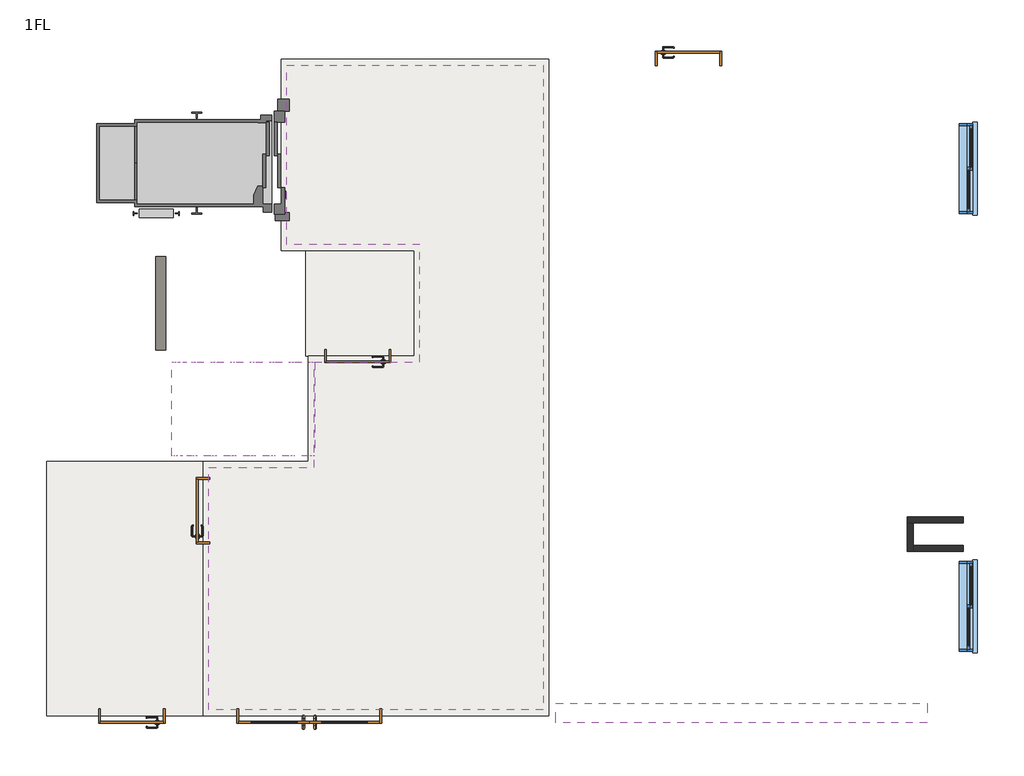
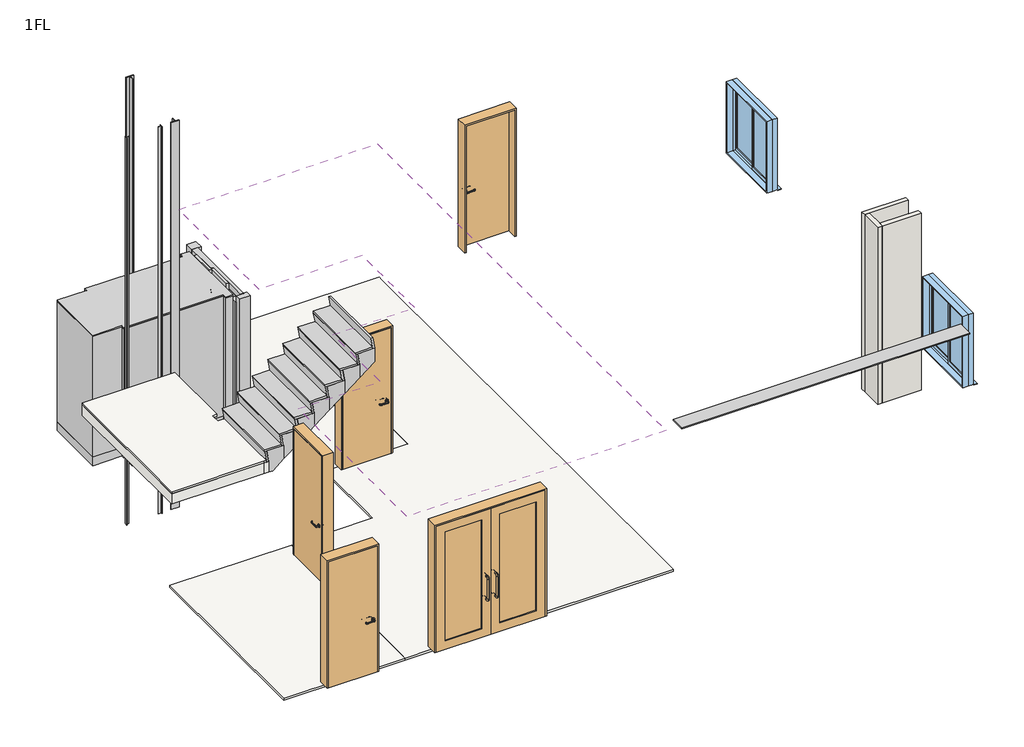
# One storey: 5 doors, 4 slabs, 3 walls, 2 windows, 1 beam, 1 covering, 1 proxy, 1 stair flight.
"""IFC4 building model written with IfcOpenShell, lengths in millimetres."""

from ifc_helpers import new_model, si_unit, frame, origin, origin_with_axes, place, context, project, spatial, polyline, outline, extrude, faceted_brep, transform, mapped, element, save
from components import beam_5df8994f, mechanical_equipment_0a9e674c, w1800h2200_4cd1905f, w800h2200_b60957cc, w800h2200_114c1d1d, w1100h1200_91eb5f9d

model = new_model("IFC4")

# Units and contexts
model_context = context("Model", 3, world=origin())
ifc_project = project(units=[si_unit("LENGTHUNIT", "METRE", prefix="MILLI")], contexts=[model_context])

# Site, building, storey
site = spatial("IfcSite", under=ifc_project)
building = spatial("IfcBuilding", under=site)
storey = spatial("IfcBuildingStorey", under=building, Name="1FL", Elevation=35.0)

# Beam
placement = place(None, origin())
beam_shape = beam_5df8994f(model_context)
element("IfcBeam", 1, ObjectType="増し打ち : 増し打ち", at=placement, inside=storey, context=model_context, shape_type="MappedRepresentation", body=[
    mapped(beam_shape, transform((0.0, 0.0, 0.0), x_axis=(1.0, 0.0, 0.0), y_axis=(0.0, 1.0, 0.0), z_axis=(0.0, 0.0, 1.0))),
])

# Proxy
mechanical_equipment_shape = mechanical_equipment_0a9e674c(model_context)
element("IfcBuildingElementProxy", 2, Name="エレベータ住宅用 - トランク付 : 9 人乗", ObjectType="エレベータ住宅用 - トランク付 : 9 人乗", at=placement, inside=storey, context=model_context, shape_type="MappedRepresentation", body=[
    mapped(mechanical_equipment_shape, transform((-706.7658988, 2143.6001516, 35.0), x_axis=(0.0, 1.0, 0.0), y_axis=(-1.0, 0.0, 0.0), z_axis=(0.0, 0.0, 1.0))),
])

# Covering
element("IfcCovering", 3, ObjectType="化粧石膏ボード", at=placement, inside=storey, context=model_context, shape_type="SweptSolid", body=[
    extrude(outline(polyline([(-631.7658988, 3398.6001516), (2643.2341012, 3398.6001516), (2643.2341012, -4851.3998484), (-1631.7658988, -4851.3998484), (-1631.7658988, -1751.3998484), (-281.7658988, -1751.3998484), (-281.7658988, -401.3998484), (1068.2341012, -401.3998484), (1068.2341012, 1098.6001516), (-631.7658988, 1098.6001516), (-631.7658988, 3398.6001516)])), frame((0.0, 0.0, 2435.0), z_axis=(0.0, 0.0, 1.0), x_axis=(1.0, 0.0, 0.0)), (0.0, 0.0, 1.0), 9.5),
])

# Doors
w1800h2200_shape = w1800h2200_4cd1905f(model_context)
element("IfcDoor", 4, ObjectType="両開き_ガラス四方框 : w1800h2200", at=placement, inside=storey, context=model_context, shape_type="MappedRepresentation", body=[
    mapped(w1800h2200_shape, transform((-346.7658988, -4933.8998484, 35.0), x_axis=(-1.0, 0.0, 0.0), y_axis=(0.0, -1.0, 0.0), z_axis=(0.0, 0.0, 1.0))),
])
w800h2200_shape = w800h2200_b60957cc(model_context)
element("IfcDoor", 5, ObjectType="片開き : w800h2200", at=placement, inside=storey, context=model_context, shape_type="MappedRepresentation", body=[
    mapped(w800h2200_shape, transform((-1706.7658988, -2306.3998484, 35.0), x_axis=(0.0, 1.0, 0.0), y_axis=(-1.0, 0.0, 0.0), z_axis=(0.0, 0.0, 1.0))),
])
element("IfcDoor", 6, ObjectType="片開き : w800h2200", at=placement, inside=storey, context=model_context, shape_type="MappedRepresentation", body=[
    mapped(w800h2200_shape, transform((273.2341012, -326.3998484, 35.0), x_axis=(-1.0, 0.0, 0.0), y_axis=(0.0, -1.0, 0.0), z_axis=(0.0, 0.0, 1.0))),
])
w800h2200_2_shape = w800h2200_114c1d1d(model_context)
element("IfcDoor", 7, ObjectType="片開き : w800h2200", at=placement, inside=storey, context=model_context, shape_type="MappedRepresentation", body=[
    mapped(w800h2200_2_shape, transform((4503.2341012, 3481.1001516, 35.0), x_axis=(1.0, 0.0, 0.0), y_axis=(0.0, 1.0, 0.0), z_axis=(0.0, 0.0, 1.0))),
])
element("IfcDoor", 8, ObjectType="片開き : w800h2200", at=placement, inside=storey, context=model_context, shape_type="MappedRepresentation", body=[
    mapped(w800h2200_2_shape, transform((-2616.7658988, -4933.8998484, 35.0), x_axis=(-1.0, 0.0, 0.0), y_axis=(0.0, -1.0, 0.0), z_axis=(0.0, 0.0, 1.0))),
])

# Slabs
element("IfcSlab", 9, ObjectType="防水モルタル", at=placement, inside=storey, context=model_context, shape_type="SweptSolid", body=[
    extrude(outline(polyline([(-1706.7658988, -4926.3998484), (-3706.7658988, -4926.3998484), (-3706.7658988, -1676.3998484), (-1706.7658988, -1676.3998484), (-1706.7658988, -4926.3998484)])), origin_with_axes(), (0.0, 0.0, 1.0), 35.0),
])
element("IfcSlab", 10, ObjectType="防滑性長尺塩ビシート", at=placement, inside=storey, context=model_context, shape_type="SweptSolid", body=[
    extrude(outline(polyline([(-391.7658988, 1023.6001516), (993.2341012, 1023.6001516), (993.2341012, -326.3998484), (-391.7658988, -326.3998484), (-391.7658988, 1023.6001516)])), origin_with_axes(), (0.0, 0.0, 1.0), 35.0),
])
element("IfcSlab", 11, ObjectType="磁器タイル", at=placement, inside=storey, context=model_context, shape_type="Brep", body=[
    faceted_brep([(-1706.7658988, -1676.3998484, 0.0), (-356.7658988, -1676.3998484, 0.0), (-356.7658988, -1601.3998484, 0.0), (-356.7658988, -401.3998484, 0.0), (-356.7658988, -326.3998484, 0.0), (993.2341012, -326.3998484, 0.0), (993.2341012, 1023.6001516, 0.0), (-706.7658988, 1023.6001516, 0.0), (-706.7658988, 3473.6001516, 0.0), (2718.2341012, 3473.6001516, 0.0), (2718.2341012, 3398.6001516, 0.0), (2718.2341012, -4601.3998484, 0.0), (2718.2341012, -4926.3998484, 0.0), (2643.2341012, -4926.3998484, 0.0), (-1706.7658988, -4926.3998484, 0.0), (-1706.7658988, -4851.3998484, 0.0), (-1706.7658988, -1751.3998484, 0.0), (-1706.7658988, -1676.3998484, 35.0), (-1706.7658988, -1751.3998484, 35.0), (-1706.7658988, -4851.3998484, 35.0), (-1706.7658988, -4926.3998484, 35.0), (-1271.7658988, -4926.3998484, 35.0), (578.2341012, -4926.3998484, 35.0), (2643.2341012, -4926.3998484, 35.0), (2718.2341012, -4926.3998484, 35.0), (2718.2341012, -4601.3998484, 35.0), (2718.2341012, 3398.6001516, 35.0), (2718.2341012, 3473.6001516, 35.0), (-706.7658988, 3473.6001516, 35.0), (-706.7658988, 1023.6001516, 35.0), (993.2341012, 1023.6001516, 35.0), (993.2341012, -326.3998484, 35.0), (-356.7658988, -326.3998484, 35.0), (-356.7658988, -401.3998484, 35.0), (-356.7658988, -1601.3998484, 35.0), (-356.7658988, -1676.3998484, 35.0)], [[[0, 1, 2, 3, 4, 5, 6, 7, 8, 9, 10, 11, 12, 13, 14, 15, 16]], [[17, 18, 19, 20, 21, 22, 23, 24, 25, 26, 27, 28, 29, 30, 31, 32, 33, 34, 35]], [[1, 0, 17, 35]], [[4, 3, 2, 1, 35, 34, 33, 32]], [[5, 4, 32, 31]], [[6, 5, 31, 30]], [[7, 6, 30, 29]], [[8, 7, 29, 28]], [[9, 8, 28, 27]], [[12, 11, 10, 9, 27, 26, 25, 24]], [[14, 13, 12, 24, 23, 22, 21, 20]], [[0, 16, 15, 14, 20, 19, 18, 17]]]),
])
element("IfcSlab", 12, ObjectType="180 mm 厚さ", at=placement, inside=storey, context=model_context, shape_type="Brep", body=[
    faceted_brep([(-3631.7658988, 948.6001516, 1560.0), (-3631.7658988, -1601.3998484, 1560.0), (-2106.7658988, -1601.3998484, 1560.0), (-2029.9245426, -1601.3998484, 1560.0), (-2029.9245426, -401.3998484, 1560.0), (-2106.7658988, -401.3998484, 1560.0), (-2181.7658988, -401.3998484, 1560.0), (-2181.7658988, -251.3998484, 1560.0), (-2148.6072551, -251.3998484, 1560.0), (-2148.6072551, 948.6001516, 1560.0), (-2495.5058187, 948.6001516, 1560.0), (-2183.6072551, 948.6001516, 1365.0), (-2183.6072551, 948.6001516, 1136.7191204), (-2495.5058187, 948.6001516, 1380.0), (-3631.7658988, 948.6001516, 1380.0), (-2106.7658988, -1601.3998484, 1380.0), (-2029.9245426, -1601.3998484, 1380.0), (-2029.9245426, -401.3998484, 1380.0), (-2106.7658988, -401.3998484, 1380.0), (-2181.7658988, -401.3998484, 1380.0), (-2495.5058187, -251.3998484, 1380.0), (-2181.7658988, -251.3998484, 1380.0), (-3631.7658988, -1601.3998484, 1380.0), (-2183.6072551, -251.3998484, 1136.7191204), (-2183.6072551, -251.3998484, 1365.0)], [[[0, 1, 2, 3, 4, 5, 6, 7, 8, 9, 10]], [[9, 11, 12, 13, 14, 0, 10]], [[3, 2, 15, 16]], [[5, 4, 17, 18]], [[6, 5, 18, 19]], [[13, 20, 21, 19, 18, 17, 16, 15, 22, 14]], [[20, 13, 12, 23]], [[8, 7, 21, 20, 23, 24]], [[9, 8, 24, 11]], [[11, 24, 23, 12]], [[1, 0, 14, 22]], [[2, 1, 22, 15]], [[4, 3, 16, 17]], [[7, 6, 19, 21]]]),
    faceted_brep([(-2106.7658988, 948.6001516, 1595.0), (-3631.7658988, 948.6001516, 1595.0), (-3631.7658988, -1601.3998484, 1595.0), (-2106.7658988, -1601.3998484, 1595.0), (-2071.7658988, -1601.3998484, 1595.0), (-2071.7658988, -401.3998484, 1595.0), (-2106.7658988, -401.3998484, 1595.0), (-2181.7658988, -401.3998484, 1595.0), (-2181.7658988, -251.3998484, 1595.0), (-2106.7658988, -251.3998484, 1595.0), (-3631.7658988, -1601.3998484, 1560.0), (-3631.7658988, 948.6001516, 1560.0), (-2113.0479501, 948.6001516, 1560.0), (-2113.0479501, -251.3998484, 1560.0), (-2181.7658988, -251.3998484, 1560.0), (-2181.7658988, -401.3998484, 1560.0), (-2106.7658988, -401.3998484, 1560.0), (-2065.4838476, -401.3998484, 1560.0), (-2065.4838476, -1601.3998484, 1560.0), (-2106.7658988, -1601.3998484, 1560.0)], [[[0, 1, 2, 3, 4, 5, 6, 7, 8, 9]], [[10, 11, 12, 13, 14, 15, 16, 17, 18, 19]], [[9, 8, 14, 13]], [[1, 0, 12, 11]], [[4, 3, 19, 18]], [[6, 5, 17, 16]], [[7, 6, 16, 15]], [[4, 18, 17, 5]], [[2, 1, 11, 10]], [[3, 2, 10, 19]], [[8, 7, 15, 14]], [[0, 9, 13, 12]]]),
])

# Stair flight
element("IfcStairFlight", 13, ObjectType="一体型の階段踏面", at=placement, inside=storey, context=model_context, shape_type="SolidModel", body=[
    faceted_brep([(-2064.9245426, -1601.3998484, 1755.0), (-2064.9245426, -401.3998484, 1755.0), (-2029.9245426, -401.3998484, 1560.0), (-2029.9245426, -1601.3998484, 1560.0), (-1968.025979, -1601.3998484, 1755.0), (-1779.9245426, -1601.3998484, 1755.0), (-1779.9245426, -401.3998484, 1755.0), (-1968.025979, -401.3998484, 1755.0), (-1779.9245426, -401.3998484, 1526.7191204), (-1968.025979, -401.3998484, 1380.0), (-2029.9245426, -401.3998484, 1380.0), (-2029.9245426, -1601.3998484, 1380.0), (-1968.025979, -1601.3998484, 1380.0), (-1779.9245426, -1601.3998484, 1526.7191204), (-1814.9245426, -401.3998484, 1950.0), (-1814.9245426, -1601.3998484, 1950.0), (-1529.9245426, -1601.3998484, 1950.0), (-1529.9245426, -401.3998484, 1950.0), (-1529.9245426, -401.3998484, 1721.7191204), (-1529.9245426, -1601.3998484, 1721.7191204), (-1564.9245426, -401.3998484, 2145.0), (-1564.9245426, -1601.3998484, 2145.0), (-1279.9245426, -1601.3998484, 2145.0), (-1279.9245426, -401.3998484, 2145.0), (-1279.9245426, -401.3998484, 1916.7191204), (-1279.9245426, -1601.3998484, 1916.7191204), (-1314.9245426, -401.3998484, 2340.0), (-1314.9245426, -1601.3998484, 2340.0), (-1029.9245426, -1601.3998484, 2340.0), (-1029.9245426, -401.3998484, 2340.0), (-1029.9245426, -401.3998484, 2111.7191204), (-1029.9245426, -1601.3998484, 2111.7191204), (-1064.9245426, -401.3998484, 2535.0), (-1064.9245426, -1601.3998484, 2535.0), (-779.9245426, -1601.3998484, 2535.0), (-779.9245426, -401.3998484, 2535.0), (-779.9245426, -401.3998484, 2306.7191204), (-779.9245426, -1601.3998484, 2306.7191204), (-814.9245426, -401.3998484, 2730.0), (-814.9245426, -1601.3998484, 2730.0), (-529.9245426, -1601.3998484, 2730.0), (-529.9245426, -401.3998484, 2730.0), (-529.9245426, -401.3998484, 2501.7191204), (-529.9245426, -1601.3998484, 2501.7191204), (-564.9245426, -401.3998484, 2925.0), (-564.9245426, -1601.3998484, 2925.0), (-279.9245426, -1601.3998484, 2925.0), (-279.9245426, -401.3998484, 2925.0), (-279.9245426, -401.3998484, 2696.7191204), (-279.9245426, -1601.3998484, 2696.7191204)], [[[0, 1, 2, 3]], [[1, 0, 4, 5, 6, 7]], [[2, 1, 7, 6, 8, 9, 10]], [[3, 2, 10, 11]], [[0, 3, 11, 12, 13, 5, 4]], [[14, 15, 16, 17]], [[14, 17, 18, 8, 6]], [[16, 15, 5, 13, 19]], [[15, 14, 6, 5]], [[20, 21, 22, 23]], [[20, 23, 24, 18, 17]], [[22, 21, 16, 19, 25]], [[21, 20, 17, 16]], [[26, 27, 28, 29]], [[26, 29, 30, 24, 23]], [[28, 27, 22, 25, 31]], [[27, 26, 23, 22]], [[32, 33, 34, 35]], [[32, 35, 36, 30, 29]], [[34, 33, 28, 31, 37]], [[33, 32, 29, 28]], [[38, 39, 40, 41]], [[38, 41, 42, 36, 35]], [[40, 39, 34, 37, 43]], [[39, 38, 35, 34]], [[44, 45, 46, 47]], [[44, 47, 48, 42, 41]], [[46, 45, 40, 43, 49]], [[47, 46, 49, 48]], [[45, 44, 41, 40]], [[12, 9, 8, 18, 24, 30, 36, 42, 48, 49, 43, 37, 31, 25, 19, 13]], [[9, 12, 11, 10]]]),
    extrude(outline(polyline([(1790.0, -1821.7658988), (1790.0, -2106.7658988), (1755.0, -2100.4838476), (1755.0, -1815.4838476), (1790.0, -1821.7658988)])), frame((0.0, -1601.3998484, 0.0), z_axis=(0.0, 1.0, 0.0), x_axis=(0.0, 0.0, 1.0)), (0.0, 0.0, 1.0), 1200.0),
    extrude(outline(polyline([(1755.0, -2100.4838476), (1560.0, -2065.4838476), (1560.0, -2029.9245426), (1755.0, -2064.9245426), (1755.0, -2100.4838476)])), frame((0.0, -1601.3998484, 0.0), z_axis=(0.0, 1.0, 0.0), x_axis=(0.0, 0.0, 1.0)), (0.0, 0.0, 1.0), 1200.0),
    extrude(outline(polyline([(1950.0, -1850.4838476), (1755.0, -1815.4838476), (1755.0, -1779.9245426), (1950.0, -1814.9245426), (1950.0, -1850.4838476)])), frame((0.0, -1601.3998484, 0.0), z_axis=(0.0, 1.0, 0.0), x_axis=(0.0, 0.0, 1.0)), (0.0, 0.0, 1.0), 1200.0),
    extrude(outline(polyline([(1985.0, -1571.7658988), (1985.0, -1856.7658988), (1950.0, -1850.4838476), (1950.0, -1565.4838476), (1985.0, -1571.7658988)])), frame((0.0, -1601.3998484, 0.0), z_axis=(0.0, 1.0, 0.0), x_axis=(0.0, 0.0, 1.0)), (0.0, 0.0, 1.0), 1200.0),
    extrude(outline(polyline([(2145.0, -1600.4838476), (1950.0, -1565.4838476), (1950.0, -1529.9245426), (2145.0, -1564.9245426), (2145.0, -1600.4838476)])), frame((0.0, -1601.3998484, 0.0), z_axis=(0.0, 1.0, 0.0), x_axis=(0.0, 0.0, 1.0)), (0.0, 0.0, 1.0), 1200.0),
    extrude(outline(polyline([(2180.0, -1321.7658988), (2180.0, -1606.7658988), (2145.0, -1600.4838476), (2145.0, -1315.4838476), (2180.0, -1321.7658988)])), frame((0.0, -1601.3998484, 0.0), z_axis=(0.0, 1.0, 0.0), x_axis=(0.0, 0.0, 1.0)), (0.0, 0.0, 1.0), 1200.0),
    extrude(outline(polyline([(2340.0, -1350.4838476), (2145.0, -1315.4838476), (2145.0, -1279.9245426), (2340.0, -1314.9245426), (2340.0, -1350.4838476)])), frame((0.0, -1601.3998484, 0.0), z_axis=(0.0, 1.0, 0.0), x_axis=(0.0, 0.0, 1.0)), (0.0, 0.0, 1.0), 1200.0),
    extrude(outline(polyline([(2375.0, -1071.7658988), (2375.0, -1356.7658988), (2340.0, -1350.4838476), (2340.0, -1065.4838476), (2375.0, -1071.7658988)])), frame((0.0, -1601.3998484, 0.0), z_axis=(0.0, 1.0, 0.0), x_axis=(0.0, 0.0, 1.0)), (0.0, 0.0, 1.0), 1200.0),
    extrude(outline(polyline([(2535.0, -1100.4838476), (2340.0, -1065.4838476), (2340.0, -1029.9245426), (2535.0, -1064.9245426), (2535.0, -1100.4838476)])), frame((0.0, -1601.3998484, 0.0), z_axis=(0.0, 1.0, 0.0), x_axis=(0.0, 0.0, 1.0)), (0.0, 0.0, 1.0), 1200.0),
    extrude(outline(polyline([(2570.0, -821.7658988), (2570.0, -1106.7658988), (2535.0, -1100.4838476), (2535.0, -815.4838476), (2570.0, -821.7658988)])), frame((0.0, -1601.3998484, 0.0), z_axis=(0.0, 1.0, 0.0), x_axis=(0.0, 0.0, 1.0)), (0.0, 0.0, 1.0), 1200.0),
    extrude(outline(polyline([(2730.0, -850.4838476), (2535.0, -815.4838476), (2535.0, -779.9245426), (2730.0, -814.9245426), (2730.0, -850.4838476)])), frame((0.0, -1601.3998484, 0.0), z_axis=(0.0, 1.0, 0.0), x_axis=(0.0, 0.0, 1.0)), (0.0, 0.0, 1.0), 1200.0),
    extrude(outline(polyline([(2765.0, -571.7658988), (2765.0, -856.7658988), (2730.0, -850.4838476), (2730.0, -565.4838476), (2765.0, -571.7658988)])), frame((0.0, -1601.3998484, 0.0), z_axis=(0.0, 1.0, 0.0), x_axis=(0.0, 0.0, 1.0)), (0.0, 0.0, 1.0), 1200.0),
    extrude(outline(polyline([(2925.0, -600.4838476), (2730.0, -565.4838476), (2730.0, -529.9245426), (2925.0, -564.9245426), (2925.0, -600.4838476)])), frame((0.0, -1601.3998484, 0.0), z_axis=(0.0, 1.0, 0.0), x_axis=(0.0, 0.0, 1.0)), (0.0, 0.0, 1.0), 1200.0),
    extrude(outline(polyline([(3120.0, -350.4838476), (2925.0, -315.4838476), (2925.0, -279.9245426), (3120.0, -314.9245426), (3120.0, -350.4838476)])), frame((0.0, -1601.3998484, 0.0), z_axis=(0.0, 1.0, 0.0), x_axis=(0.0, 0.0, 1.0)), (0.0, 0.0, 1.0), 1200.0),
    extrude(outline(polyline([(2960.0, -321.7658988), (2960.0, -606.7658988), (2925.0, -600.4838476), (2925.0, -315.4838476), (2960.0, -321.7658988)])), frame((0.0, -1601.3998484, 0.0), z_axis=(0.0, 1.0, 0.0), x_axis=(0.0, 0.0, 1.0)), (0.0, 0.0, 1.0), 1200.0),
])

# Walls
element("IfcWall", 14, ObjectType="標準\u300065ｍｍ+12.5mm", at=placement, inside=storey, context=model_context, shape_type="Brep", body=[
    faceted_brep([(8018.2341012, -2381.3998484, 35.0), (7298.2341012, -2381.3998484, 35.0), (7298.2341012, -2381.3998484, 3120.0), (8018.2341012, -2381.3998484, 3120.0), (8018.2341012, -2458.8998484, 35.0), (8018.2341012, -2458.8998484, 3120.0), (7375.7341012, -2458.8998484, 3120.0), (7298.2341012, -2458.8998484, 3120.0), (7298.2341012, -2458.8998484, 35.0), (7375.7341012, -2458.8998484, 35.0)], [[[0, 1, 2, 3]], [[4, 5, 6, 7, 8, 9]], [[1, 0, 4, 9, 8]], [[3, 2, 7, 6, 5]], [[0, 3, 5, 4]], [[2, 1, 8, 7]]]),
])
element("IfcWall", 15, ObjectType="標準\u300065ｍｍ+12.5mm", at=placement, inside=storey, context=model_context, shape_type="Brep", body=[
    faceted_brep([(7298.2341012, -2458.8998484, 35.0), (7298.2341012, -2826.3998484, 35.0), (7298.2341012, -2826.3998484, 3120.0), (7298.2341012, -2458.8998484, 3120.0), (7375.7341012, -2458.8998484, 35.0), (7375.7341012, -2458.8998484, 3120.0), (7375.7341012, -2748.8998484, 3120.0), (7375.7341012, -2826.3998484, 3120.0), (7375.7341012, -2826.3998484, 35.0), (7375.7341012, -2748.8998484, 35.0)], [[[0, 1, 2, 3]], [[4, 5, 6, 7, 8, 9]], [[1, 0, 4, 9, 8]], [[3, 2, 7, 6, 5]], [[0, 3, 5, 4]], [[2, 1, 8, 7]]]),
])
element("IfcWall", 16, ObjectType="標準\u300065ｍｍ+12.5mm", at=placement, inside=storey, context=model_context, shape_type="SweptSolid", body=[
    extrude(outline(polyline([(8018.2341012, -2826.3998484), (7375.7341012, -2826.3998484), (7375.7341012, -2748.8998484), (8018.2341012, -2748.8998484), (8018.2341012, -2826.3998484)])), frame((0.0, 0.0, 35.0), z_axis=(0.0, 0.0, 1.0), x_axis=(1.0, 0.0, 0.0)), (0.0, 0.0, 1.0), 3085.0),
])

# Windows
w1100h1200_shape = w1100h1200_91eb5f9d(model_context)
element("IfcWindow", 17, ObjectType="引違い腰窓_2枚 : W1100H1200", at=placement, inside=storey, context=model_context, shape_type="MappedRepresentation", body=[
    mapped(w1100h1200_shape, transform((8100.7341012, 2073.6001516, -65.0), x_axis=(0.0, -1.0, 0.0), y_axis=(1.0, 0.0, 0.0), z_axis=(0.0, 0.0, 1.0))),
])
element("IfcWindow", 18, ObjectType="引違い腰窓_2枚 : W1100H1200", at=placement, inside=storey, context=model_context, shape_type="MappedRepresentation", body=[
    mapped(w1100h1200_shape, transform((8100.7341012, -3526.3998484, -65.0), x_axis=(0.0, -1.0, 0.0), y_axis=(1.0, 0.0, 0.0), z_axis=(0.0, 0.0, 1.0))),
])

save(model, "model.ifc")
